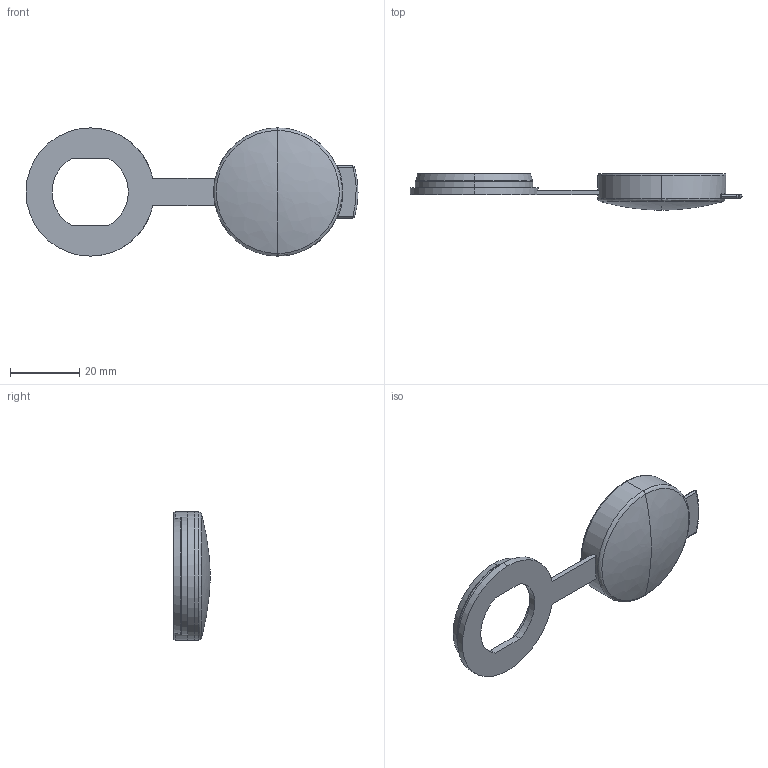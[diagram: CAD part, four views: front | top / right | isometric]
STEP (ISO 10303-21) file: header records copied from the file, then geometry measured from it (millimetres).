
FILE_DESCRIPTION (( 'STEP AP214' ), '1' );
FILE_NAME ('2.904.001.STEP', '2016-08-23T05:35:33', ( 'Krzysiek' ), ( '' ), 'SwSTEP 2.0', 'SolidWorks 2015', '' );
FILE_SCHEMA (( 'AUTOMOTIVE_DESIGN' ));
Length unit declared in the file: millimetre
Products named in the file (1): 2.904.001
Bounding box: 95.75 x 10.5 x 37 mm (x, y, z)
Volume: 3758.7 mm3; surface area: 6880.7 mm2
Topology: 1 solids, 1 shells, 60 faces, 139 edges, 82 vertices
Faces by surface type: bspline 21, cylinder 18, plane 17, cone 4
Entity records: 2114 total; most frequent: CARTESIAN_POINT 791, DIRECTION 272, ORIENTED_EDGE 270, EDGE_CURVE 135, AXIS2_PLACEMENT_3D 113, VERTEX_POINT 82, CIRCLE 73, EDGE_LOOP 67
